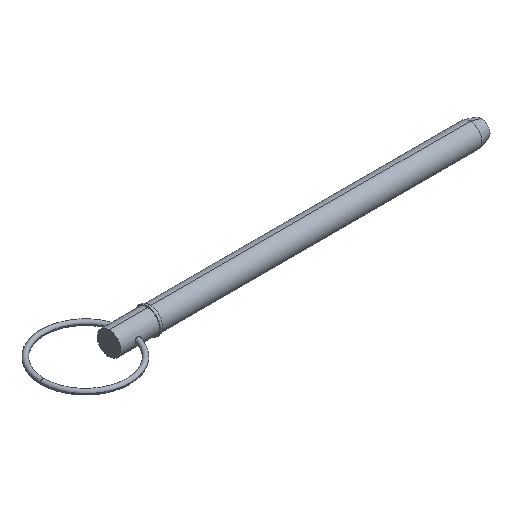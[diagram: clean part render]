
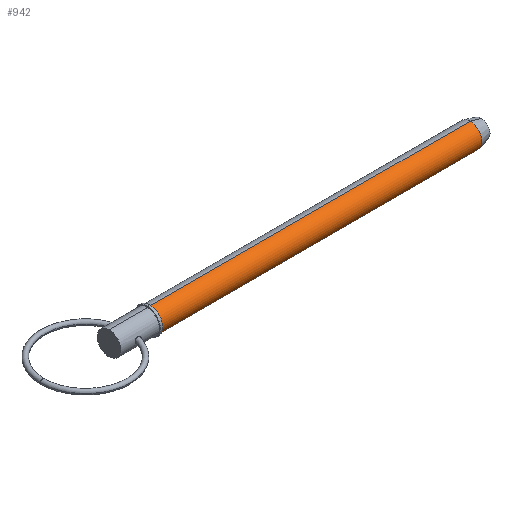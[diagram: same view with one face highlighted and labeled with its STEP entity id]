
A CAD part, isometric view. The second image highlights one B-rep face of the part: STEP entity #942.
In plain terms, the highlighted cylindrical face has radius 7.94 mm (diameter 15.88 mm), a partial arc.
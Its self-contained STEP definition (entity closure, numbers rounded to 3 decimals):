
#21 = VERTEX_POINT ( 'NONE', #453 ) ;
#45 = CARTESIAN_POINT ( 'NONE',  ( 0., 0., 7.94 ) ) ;
#61 = LINE ( 'NONE', #618, #411 ) ;
#93 = CARTESIAN_POINT ( 'NONE',  ( 242.152, 0., 0. ) ) ;
#100 = CARTESIAN_POINT ( 'NONE',  ( 27.31, 0., 0. ) ) ;
#107 = EDGE_CURVE ( 'NONE', #553, #414, #61, .T. ) ;
#127 = DIRECTION ( 'NONE',  ( 1., 0., 0. ) ) ;
#167 = CARTESIAN_POINT ( 'NONE',  ( 242.152, 0., -7.94 ) ) ;
#174 = DIRECTION ( 'NONE',  ( 1., 0., 0. ) ) ;
#237 = ORIENTED_EDGE ( 'NONE', *, *, #901, .F. ) ;
#270 = DIRECTION ( 'NONE',  ( 1., 0., 0. ) ) ;
#273 = CIRCLE ( 'NONE', #660, 7.94 ) ;
#291 = AXIS2_PLACEMENT_3D ( 'NONE', #527, #270, #442 ) ;
#345 = ORIENTED_EDGE ( 'NONE', *, *, #664, .T. ) ;
#350 = DIRECTION ( 'NONE',  ( 0., 0., -1. ) ) ;
#411 = VECTOR ( 'NONE', #127, 1000. ) ;
#414 = VERTEX_POINT ( 'NONE', #167 ) ;
#421 = CARTESIAN_POINT ( 'NONE',  ( 27.31, 0., 7.94 ) ) ;
#442 = DIRECTION ( 'NONE',  ( 0., 0., -1. ) ) ;
#453 = CARTESIAN_POINT ( 'NONE',  ( 242.152, 0., 7.94 ) ) ;
#512 = AXIS2_PLACEMENT_3D ( 'NONE', #100, #174, #350 ) ;
#525 = LINE ( 'NONE', #45, #867 ) ;
#527 = CARTESIAN_POINT ( 'NONE',  ( 0., 0., 0. ) ) ;
#553 = VERTEX_POINT ( 'NONE', #639 ) ;
#566 = CIRCLE ( 'NONE', #512, 7.94 ) ;
#590 = DIRECTION ( 'NONE',  ( 0., 0., -1. ) ) ;
#605 = FACE_OUTER_BOUND ( 'NONE', #810, .T. ) ;
#618 = CARTESIAN_POINT ( 'NONE',  ( 0., 0., -7.94 ) ) ;
#639 = CARTESIAN_POINT ( 'NONE',  ( 27.31, 0., -7.94 ) ) ;
#650 = ORIENTED_EDGE ( 'NONE', *, *, #107, .T. ) ;
#660 = AXIS2_PLACEMENT_3D ( 'NONE', #93, #824, #590 ) ;
#662 = ORIENTED_EDGE ( 'NONE', *, *, #790, .F. ) ;
#664 = EDGE_CURVE ( 'NONE', #796, #553, #566, .T. ) ;
#790 = EDGE_CURVE ( 'NONE', #21, #414, #273, .T. ) ;
#796 = VERTEX_POINT ( 'NONE', #421 ) ;
#810 = EDGE_LOOP ( 'NONE', ( #237, #345, #650, #662 ) ) ;
#824 = DIRECTION ( 'NONE',  ( 1., 0., 0. ) ) ;
#852 = DIRECTION ( 'NONE',  ( 1., 0., 0. ) ) ;
#867 = VECTOR ( 'NONE', #852, 1000. ) ;
#901 = EDGE_CURVE ( 'NONE', #796, #21, #525, .T. ) ;
#942 = ADVANCED_FACE ( 'NONE', ( #605 ), #1019, .T. ) ;
#1019 = CYLINDRICAL_SURFACE ( 'NONE', #291, 7.94 ) ;
